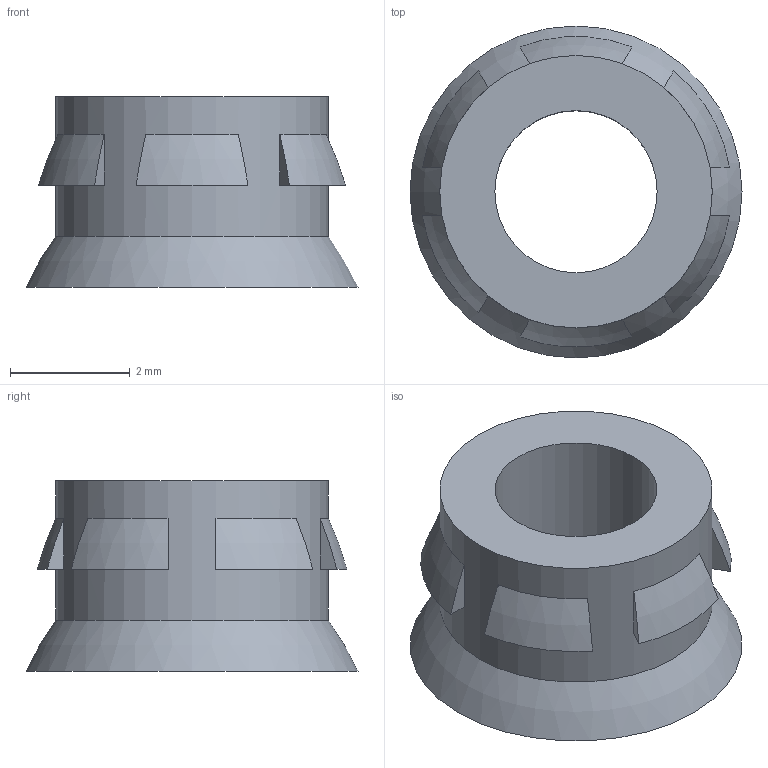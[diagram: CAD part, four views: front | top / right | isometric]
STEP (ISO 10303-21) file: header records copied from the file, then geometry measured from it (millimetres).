
FILE_DESCRIPTION (( 'STEP AP214' ), '1' );
FILE_NAME ('Insert 6-32 S1.STEP', '2017-08-09T04:37:36', ( '微软用户' ), ( '微软中国' ), 'SwSTEP 2.0', 'SolidWorks 2015', '' );
FILE_SCHEMA (( 'AUTOMOTIVE_DESIGN' ));
Length unit declared in the file: millimetre
Products named in the file (1): Insert 6-32 S1
Bounding box: 5.54 x 5.54 x 3.17 mm (x, y, z)
Volume: 37.4 mm3; surface area: 109.5 mm2
Topology: 1 solids, 1 shells, 30 faces, 66 edges, 44 vertices
Faces by surface type: plane 20, torus 7, cylinder 2, cone 1
Full cylindrical faces by diameter (mm): 2.705 x1, 4.545 x1
Entity records: 865 total; most frequent: CARTESIAN_POINT 177, DIRECTION 134, ORIENTED_EDGE 120, EDGE_CURVE 60, AXIS2_PLACEMENT_3D 55, EDGE_LOOP 42, VERTEX_POINT 42, FACE_OUTER_BOUND 33
